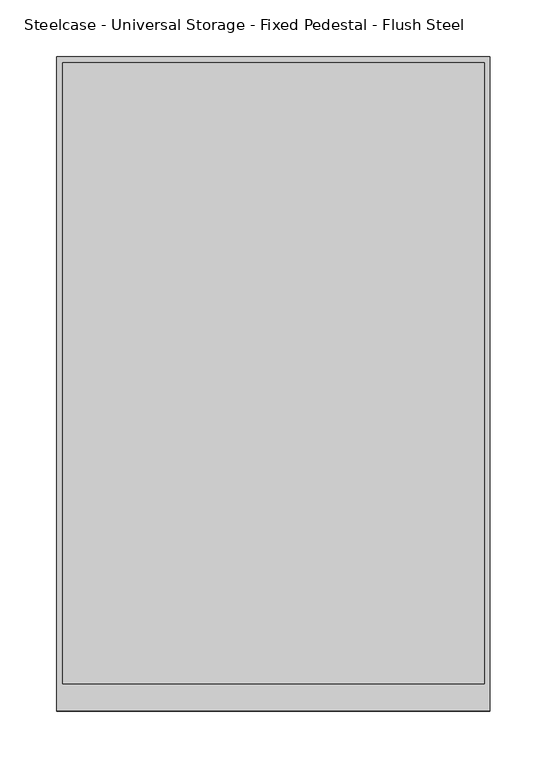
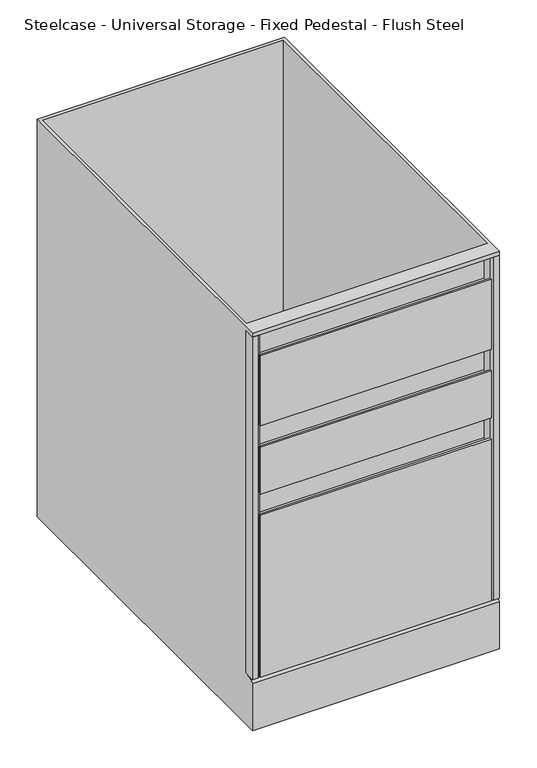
"""IFC4 building model written with IfcOpenShell, lengths in millimetres: furniture geometry, Steelcase - Universal Storage - Fixed Pedestal - Flush Steel : 2 Box/1 File - 25 1/2H x 22 5/8D."""

import ifcopenshell
import ifcopenshell.guid

model = None  # the IFC model being written
_history = None  # IfcOwnerHistory: only IFC2X3 demands one
_inside = {}  # id of a spatial element -> (the spatial element, [elements in it])
_under = {}  # id of a project, library or spatial element -> (it, [spatial elements below it])
_declared = {}  # id of a project -> (the project, [libraries it declares])
_typed = {}  # id of a type object -> (the type object, [elements of that type])
_made_of = {}  # id of a material, layer set ... -> (it, [elements and type objects made of it])


def new_model(schema):
    """Start an empty IFC model of exactly this schema.

    Asked for "IFC4X3", IfcOpenShell would pick the latest addendum, in which some entities
    have other attributes; the version numbers below select the first issue.
    IFC2X3 requires an IfcOwnerHistory on every rooted entity: one is made here for all.
    """
    global model, _history
    if schema == "IFC4X3":
        model = ifcopenshell.file(schema_version=(4, 3, 0, 0))
    else:
        model = ifcopenshell.file(schema=schema)
    _inside.clear()
    _under.clear()
    _declared.clear()
    _typed.clear()
    _made_of.clear()
    _history = None
    if model.schema == "IFC2X3":
        org = make("IfcOrganization", Name="unknown")
        user = make(
            "IfcPersonAndOrganization",
            ThePerson=make("IfcPerson", FamilyName="unknown"),
            TheOrganization=org,
        )
        app = make(
            "IfcApplication",
            ApplicationDeveloper=org,
            Version="unknown",
            ApplicationFullName="unknown",
            ApplicationIdentifier="unknown",
        )
        _history = make(
            "IfcOwnerHistory",
            OwningUser=user,
            OwningApplication=app,
            ChangeAction="ADDED",
            CreationDate=0,
        )
    return model


def make(cls, **values):
    """One entity of the class cls with the attributes given. An attribute that is None is left unset."""
    return model.create_entity(
        cls, **{name: value for name, value in values.items() if value is not None}
    )


def rooted(cls, **values):
    """An entity with a GlobalId (a new one), such as an element, a storey or a relation."""
    return make(cls, GlobalId=ifcopenshell.guid.new(), OwnerHistory=_history, **values)


def si_unit(unit_type, name, prefix=None):
    """IfcSIUnit, for example si_unit("LENGTHUNIT", "METRE", prefix="MILLI")."""
    return make("IfcSIUnit", UnitType=unit_type, Prefix=prefix, Name=name)


def assignment(units):
    """IfcUnitAssignment: the units of a project."""
    return None if units is None else make("IfcUnitAssignment", Units=units)


def point(xyz):
    """IfcCartesianPoint."""
    return None if xyz is None else make("IfcCartesianPoint", Coordinates=xyz)


def direction(xyz):
    """IfcDirection."""
    return None if xyz is None else make("IfcDirection", DirectionRatios=xyz)


def frame(location, z_axis=None, x_axis=None):
    """IfcAxis2Placement3D, a coordinate frame: its origin and axes. An axis left out is left unset."""
    return make(
        "IfcAxis2Placement3D",
        Location=point(location),
        Axis=direction(z_axis),
        RefDirection=direction(x_axis),
    )


def origin():
    """The frame at (0, 0, 0) with its axes left unset."""
    return frame((0.0, 0.0, 0.0))


def place(relative_to, where):
    """IfcLocalPlacement: puts the frame where relative to a parent placement (None: the world)."""
    return make(
        "IfcLocalPlacement", PlacementRelTo=relative_to, RelativePlacement=where
    )


def context(
    kind, dimensions, precision=None, world=None, true_north=None, identifier=None
):
    """IfcGeometricRepresentationContext, for example the 3D "Model" context."""
    return make(
        "IfcGeometricRepresentationContext",
        ContextIdentifier=identifier,
        ContextType=kind,
        CoordinateSpaceDimension=dimensions,
        Precision=precision,
        WorldCoordinateSystem=world,
        TrueNorth=true_north,
    )


def project(units=None, contexts=None):
    """IfcProject with its units and contexts."""
    return rooted(
        "IfcProject",
        Name="project",
        RepresentationContexts=contexts,
        UnitsInContext=assignment(units),
    )


def spatial(cls, under=None, at=None, **own):
    """A site, building, storey or space (cls), placed at a placement, below another one or the project."""
    s = rooted(cls, ObjectPlacement=at, **own)
    if under is not None:
        _under.setdefault(under.id(), (under, []))[1].append(s)
    return s


def polyline(points):
    """IfcPolyline through the points."""
    return make("IfcPolyline", Points=[point(p) for p in points])


def outline(outer, holes=None, kind="AREA"):
    """IfcArbitraryClosedProfileDef: a profile drawn as a closed curve; with holes, ...WithVoids."""
    if holes is None:
        return make("IfcArbitraryClosedProfileDef", ProfileType=kind, OuterCurve=outer)
    return make(
        "IfcArbitraryProfileDefWithVoids",
        ProfileType=kind,
        OuterCurve=outer,
        InnerCurves=holes,
    )


def extrude(swept, where, along, depth):
    """IfcExtrudedAreaSolid: the profile swept, set in the frame where, extruded along a direction by depth."""
    return make(
        "IfcExtrudedAreaSolid",
        SweptArea=swept,
        Position=where,
        ExtrudedDirection=direction(along),
        Depth=depth,
    )


def faces_of(points, faces, orient=None, outer=None):
    """IfcFace entities. A face is a list of loops; a loop is a list of indices into points, from 0.

    orient and outer hold one flag for each loop. By default every Orientation is true, the
    first loop of a face is its IfcFaceOuterBound and the others are IfcFaceBound.
    """
    made = []
    for i, loops in enumerate(faces):
        bounds = []
        for j, loop in enumerate(loops):
            is_outer = j == 0 if outer is None else outer[i][j]
            bounds.append(
                make(
                    "IfcFaceOuterBound" if is_outer else "IfcFaceBound",
                    Bound=make("IfcPolyLoop", Polygon=[points[k] for k in loop]),
                    Orientation=True if orient is None else orient[i][j],
                )
            )
        made.append(make("IfcFace", Bounds=bounds))
    return made


def faceted_brep(points, faces, orient=None, outer=None, voids=None):
    """IfcFacetedBrep: a solid bounded by flat faces; with voids (closed shells), ...WithVoids."""
    shared = [point(p) for p in points]
    hull = make("IfcClosedShell", CfsFaces=faces_of(shared, faces, orient, outer))
    if voids is None:
        return make("IfcFacetedBrep", Outer=hull)
    return make(
        "IfcFacetedBrepWithVoids",
        Outer=hull,
        Voids=[
            make(cls, CfsFaces=faces_of(shared, fs, o, b)) for cls, fs, o, b in voids
        ],
    )


def shape(context_of_items, identifier, shape_type, items):
    """IfcShapeRepresentation: the items that make up one representation, for example the "Body"."""
    return make(
        "IfcShapeRepresentation",
        ContextOfItems=context_of_items,
        RepresentationIdentifier=identifier,
        RepresentationType=shape_type,
        Items=items,
    )


def source(mapping_origin, context_of_items, identifier, shape_type, items):
    """IfcRepresentationMap: a shape defined once, which mapped items show again and again."""
    return make(
        "IfcRepresentationMap",
        MappingOrigin=mapping_origin,
        MappedRepresentation=shape(context_of_items, identifier, shape_type, items),
    )


def transform(
    local_origin,
    x_axis=None,
    y_axis=None,
    z_axis=None,
    scale=None,
    scale2=None,
    scale3=None,
    uniform=True,
):
    """IfcCartesianTransformationOperator3D, or its non-uniform kind. x_axis, y_axis, z_axis: its Axis1, 2, 3."""
    if uniform:
        return make(
            "IfcCartesianTransformationOperator3D",
            Axis1=direction(x_axis),
            Axis2=direction(y_axis),
            LocalOrigin=point(local_origin),
            Scale=scale,
            Axis3=direction(z_axis),
        )
    return make(
        "IfcCartesianTransformationOperator3DnonUniform",
        Axis1=direction(x_axis),
        Axis2=direction(y_axis),
        LocalOrigin=point(local_origin),
        Scale=scale,
        Axis3=direction(z_axis),
        Scale2=scale2,
        Scale3=scale3,
    )


def mapped(mapping_source, mapping_target):
    """IfcMappedItem: shows the shape of a source again, moved by a transform."""
    return make(
        "IfcMappedItem", MappingSource=mapping_source, MappingTarget=mapping_target
    )


def made_of(thing, what):
    """Note that an element or type object is made of a material, layer set ...; save() writes the relation."""
    if what is not None:
        _made_of.setdefault(what.id(), (what, []))[1].append(thing)
    return thing


def element(
    cls,
    number,
    at=None,
    inside=None,
    cuts=None,
    type_object=None,
    material=None,
    context=None,
    identifier="Body",
    shape_type=None,
    held_by="IfcProductDefinitionShape",
    body=None,
    shapes=None,
    **own,
):
    """One element of the class cls, such as IfcWall. Its Tag is "e" and its number.

    at: its placement. inside: the storey or other place that contains it. cuts: it is an
    opening in that element (IfcRelVoidsElement). A single representation is given by context,
    identifier, shape_type and body (its items); several are given by shapes. held_by: the class
    of the entity that holds the representations. save() writes the other relations.
    """
    e = rooted(cls, Tag="e%d" % number, ObjectPlacement=at, **own)
    if body is not None:
        shapes = [shape(context, identifier, shape_type, body)]
    if shapes is not None:
        e.Representation = make(held_by, Representations=shapes)
    if inside is not None:
        _inside.setdefault(inside.id(), (inside, []))[1].append(e)
    if cuts is not None:
        rooted(
            "IfcRelVoidsElement", RelatingBuildingElement=cuts, RelatedOpeningElement=e
        )
    if type_object is not None:
        _typed.setdefault(type_object.id(), (type_object, []))[1].append(e)
    return made_of(e, material)


def aggregate(whole, parts):
    """IfcRelAggregates: a whole, such as a stair, and the parts it consists of."""
    return rooted("IfcRelAggregates", RelatingObject=whole, RelatedObjects=parts)


def save(model, path):
    """Write the relations noted so far, then the file.

    IfcRelAggregates (storeys below a building ...), IfcRelContainedInSpatialStructure (elements
    in a storey), IfcRelDefinesByType, IfcRelAssociatesMaterial and IfcRelDeclares: one each for
    every whole, place, type object, material and project.
    """
    for whole, parts in _under.values():
        aggregate(whole, parts)
    for where, things in _inside.values():
        rooted(
            "IfcRelContainedInSpatialStructure",
            RelatedElements=things,
            RelatingStructure=where,
        )
    for kind, things in _typed.values():
        rooted("IfcRelDefinesByType", RelatedObjects=things, RelatingType=kind)
    for what, things in _made_of.values():
        rooted("IfcRelAssociatesMaterial", RelatedObjects=things, RelatingMaterial=what)
    for by, libraries in _declared.values():
        rooted("IfcRelDeclares", RelatingContext=by, RelatedDefinitions=libraries)
    model.write(path)


def steelcase_universal_storage_fixed_pedestal_flush_steel_56d6a547(model_context):
    return source(origin(), model_context, "Body", "SolidModel", [
        extrude(outline(polyline([(368.3000121, 0.0), (12.7000004, 0.0), (12.7000004, 3.1750001), (368.3000121, 3.1750001), (368.3000121, 0.0)])), frame((0.0, 0.0, 492.1250121), z_axis=(0.0, 0.0, 1.0), x_axis=(1.0, 0.0, 0.0)), (0.0, 0.0, 1.0), 114.2999637),
        extrude(outline(polyline([(368.3000121, 0.0), (12.7000004, 0.0), (12.7000004, 3.1750001), (368.3000121, 3.1750001), (368.3000121, 0.0)])), frame((0.0, 0.0, 381.0000363), z_axis=(0.0, 0.0, 1.0), x_axis=(1.0, 0.0, 0.0)), (0.0, 0.0, 1.0), 76.0729758),
        extrude(outline(polyline([(368.3000121, 3.1750001), (12.7000004, 3.1750001), (12.7000004, 19.0495469), (368.3000121, 19.0495469), (368.3000121, 3.1750001)])), frame((0.0, 0.0, 82.550003), z_axis=(0.0, 0.0, 1.0), x_axis=(1.0, 0.0, 0.0)), (0.0, 0.0, 1.0), 254.000003),
        extrude(outline(polyline([(368.3000121, 3.1750001), (12.7000004, 3.1750001), (12.7000004, 19.0495469), (368.3000121, 19.0495469), (368.3000121, 3.1750001)])), frame((0.0, 0.0, 381.0000363), z_axis=(0.0, 0.0, 1.0), x_axis=(1.0, 0.0, 0.0)), (0.0, 0.0, 1.0), 66.6749637),
        extrude(outline(polyline([(368.3000121, 3.1750001), (12.7000004, 3.1750001), (12.7000004, 19.0495469), (368.3000121, 19.0495469), (368.3000121, 3.1750001)])), frame((0.0, 0.0, 492.1250121), z_axis=(0.0, 0.0, 1.0), x_axis=(1.0, 0.0, 0.0)), (0.0, 0.0, 1.0), 104.7749637),
        extrude(outline(polyline([(368.3000121, 0.0), (12.7000004, 0.0), (12.7000004, 3.1750001), (368.3000121, 3.1750001), (368.3000121, 0.0)])), frame((0.0, 0.0, 82.550003), z_axis=(0.0, 0.0, 1.0), x_axis=(1.0, 0.0, 0.0)), (0.0, 0.0, 1.0), 263.5249849),
        faceted_brep([(381.0, 0.0, 641.3500242), (381.0, 19.0495469, 641.3500242), (381.0, 19.0495469, 82.550003), (381.0, 6.350003, 82.550003), (381.0, 0.0, 76.2), (381.0, 0.0, 0.0), (381.0, 574.802, 0.0), (381.0, 574.802, 647.7), (381.0, 0.0, 647.7), (0.0, 0.0, 641.3500242), (0.0, 0.0, 647.7), (0.0, 574.802, 647.7), (0.0, 574.802, 0.0), (0.0, 0.0, 0.0), (0.0, 0.0, 76.2), (0.0, 6.350003, 82.550003), (0.0, 19.0495469, 82.550003), (0.0, 19.0495469, 641.3500242), (5.08, 569.722, 647.7), (375.92, 569.722, 647.7), (375.92, 24.1295469, 647.7), (5.08, 24.1295469, 647.7), (375.92, 569.722, 82.550003), (5.08, 569.722, 82.550003), (5.08, 24.1295469, 82.550003), (375.92, 24.1295469, 82.550003)], [[[0, 1, 2, 3, 4, 5, 6, 7, 8]], [[9, 10, 11, 12, 13, 14, 15, 16, 17]], [[1, 0, 9, 17]], [[2, 1, 17, 16]], [[2, 16, 15, 3]], [[13, 5, 4, 14]], [[6, 5, 13, 12]], [[7, 6, 12, 11]], [[8, 7, 11, 10], [18, 19, 20, 21]], [[0, 8, 10, 9]], [[4, 3, 15, 14]], [[22, 23, 24, 25]], [[23, 22, 19, 18]], [[24, 23, 18, 21]], [[25, 24, 21, 20]], [[22, 25, 20, 19]]]),
        extrude(outline(polyline([(12.7000004, 19.0495469), (12.7000004, 3.1750001), (9.5250003, 0.0), (0.0, 0.0), (0.0, 19.0495469), (12.7000004, 19.0495469)])), frame((0.0, 0.0, 82.550003), z_axis=(0.0, 0.0, 1.0), x_axis=(1.0, 0.0, 0.0)), (0.0, 0.0, 1.0), 558.8000212),
        extrude(outline(polyline([(381.0000125, 19.0495469), (381.0000125, 0.0), (371.4750122, 0.0), (368.3000121, 3.1750001), (368.3000121, 19.0495469), (381.0000125, 19.0495469)])), frame((0.0, 0.0, 82.550003), z_axis=(0.0, 0.0, 1.0), x_axis=(1.0, 0.0, 0.0)), (0.0, 0.0, 1.0), 558.8000212),
    ])


if __name__ == "__main__":
    model = new_model("IFC4")
    model_context = context("Model", 3, world=origin())
    ifc_project = project(units=[si_unit("LENGTHUNIT", "METRE", prefix="MILLI")], contexts=[model_context])
    site = spatial("IfcSite", under=ifc_project)
    building = spatial("IfcBuilding", under=site)
    placement = place(None, origin())
    steelcase_universal_storage_fixed_pedestal_flush_steel_shape = steelcase_universal_storage_fixed_pedestal_flush_steel_56d6a547(model_context)
    element("IfcFurniture", 1, ObjectType="Steelcase - Universal Storage - Fixed Pedestal - Flush Steel : 2 Box/1 File - 25 1/2H x 22 5/8D", at=placement, inside=building, context=model_context, shape_type="MappedRepresentation", body=[
        mapped(steelcase_universal_storage_fixed_pedestal_flush_steel_shape, transform((0.0, 0.0, 0.0), x_axis=(1.0, 0.0, 0.0), y_axis=(0.0, 1.0, 0.0), z_axis=(0.0, 0.0, 1.0))),
    ])
    save(model, "model.ifc")
